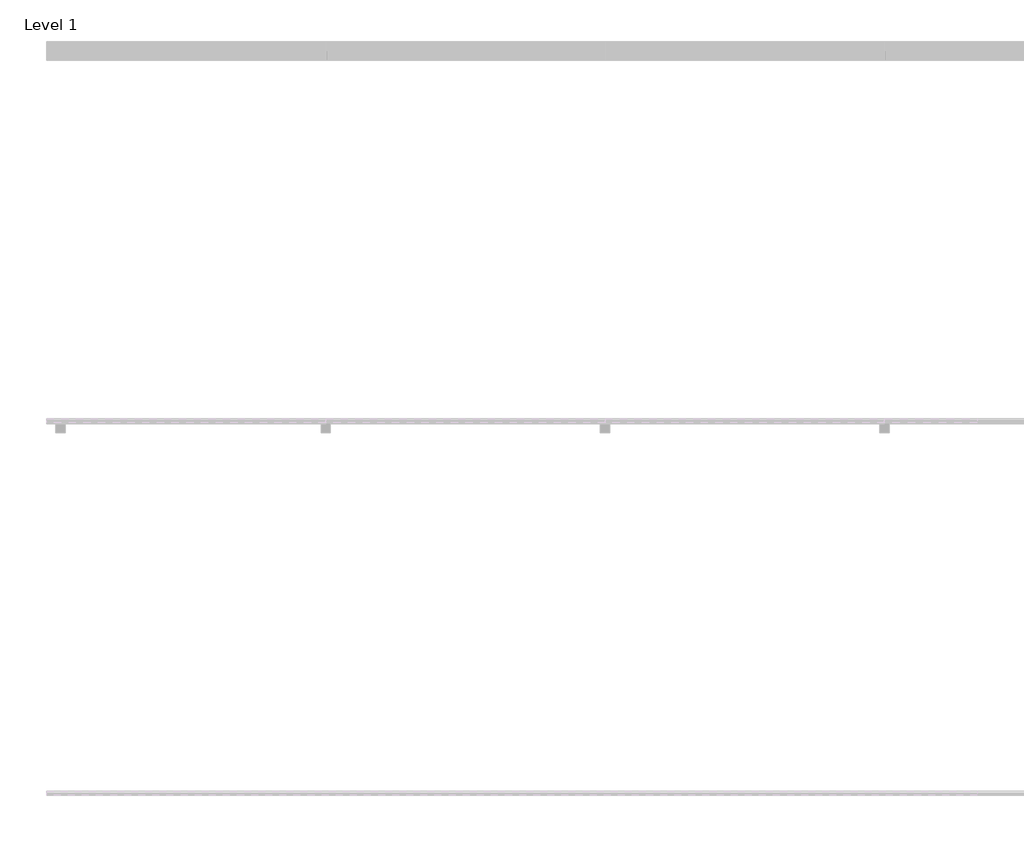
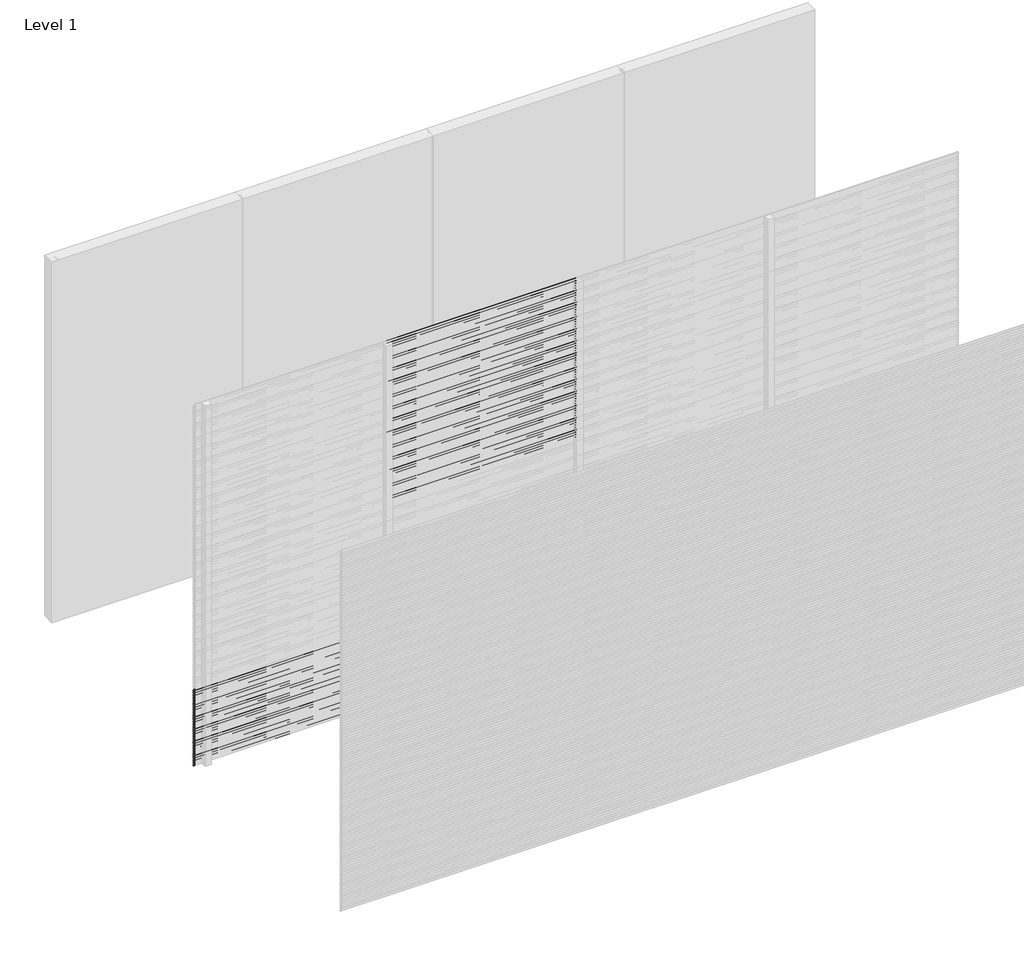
# One storey, part 12 of 31: 98 proxies.
"""IFC4 building model written with IfcOpenShell, lengths in millimetres."""

from ifc_helpers import new_model, si_unit, frame, origin, place, context, project, spatial, polyline, outline, extrude, element, save

model = new_model("IFC4")

# Units and contexts
model_context = context("Model", 3, world=origin())
ifc_project = project(units=[si_unit("LENGTHUNIT", "METRE", prefix="MILLI")], contexts=[model_context])

# Site, building, storey
site = spatial("IfcSite", under=ifc_project)
building = spatial("IfcBuilding", under=site)
storey = spatial("IfcBuildingStorey", under=building, Name="Level 1", Elevation=0.0)

# Proxies
placement = place(None, origin())
element("IfcBuildingElementProxy", 1, Name="Wall Sweeps", at=placement, inside=storey, context=model_context, shape_type="SweptSolid", body=[
    extrude(outline(polyline([(-11995.0, 640.0), (-11995.0, 628.942893), (-11976.0, 613.0), (-11976.0, 600.0), (-11997.0, 617.6210923), (-11997.0, 640.0), (-11995.0, 640.0)])), frame((0.0, 0.0, 0.0), z_axis=(1.0, 0.0, 0.0), x_axis=(0.0, 1.0, 0.0)), (0.0, 0.0, 1.0), 1500.0),
])
element("IfcBuildingElementProxy", 2, Name="Wall Sweeps", at=placement, inside=storey, context=model_context, shape_type="SweptSolid", body=[
    extrude(outline(polyline([(-11995.0, 620.0), (-11995.0, 608.942893), (-11976.0, 593.0), (-11976.0, 580.0), (-11997.0, 597.6210923), (-11997.0, 620.0), (-11995.0, 620.0)])), frame((0.0, 0.0, 0.0), z_axis=(1.0, 0.0, 0.0), x_axis=(0.0, 1.0, 0.0)), (0.0, 0.0, 1.0), 1500.0),
])
element("IfcBuildingElementProxy", 3, Name="Wall Sweeps", at=placement, inside=storey, context=model_context, shape_type="SweptSolid", body=[
    extrude(outline(polyline([(-11995.0, 600.0), (-11995.0, 588.942893), (-11976.0, 573.0), (-11976.0, 560.0), (-11997.0, 577.6210923), (-11997.0, 600.0), (-11995.0, 600.0)])), frame((0.0, 0.0, 0.0), z_axis=(1.0, 0.0, 0.0), x_axis=(0.0, 1.0, 0.0)), (0.0, 0.0, 1.0), 1500.0),
])
element("IfcBuildingElementProxy", 4, Name="Wall Sweeps", at=placement, inside=storey, context=model_context, shape_type="SweptSolid", body=[
    extrude(outline(polyline([(-11995.0, 580.0), (-11995.0, 568.942893), (-11976.0, 553.0), (-11976.0, 540.0), (-11997.0, 557.6210923), (-11997.0, 580.0), (-11995.0, 580.0)])), frame((0.0, 0.0, 0.0), z_axis=(1.0, 0.0, 0.0), x_axis=(0.0, 1.0, 0.0)), (0.0, 0.0, 1.0), 1500.0),
])
element("IfcBuildingElementProxy", 5, Name="Wall Sweeps", at=placement, inside=storey, context=model_context, shape_type="SweptSolid", body=[
    extrude(outline(polyline([(-11995.0, 560.0), (-11995.0, 548.942893), (-11976.0, 533.0), (-11976.0, 520.0), (-11997.0, 537.6210923), (-11997.0, 560.0), (-11995.0, 560.0)])), frame((0.0, 0.0, 0.0), z_axis=(1.0, 0.0, 0.0), x_axis=(0.0, 1.0, 0.0)), (0.0, 0.0, 1.0), 1500.0),
])
element("IfcBuildingElementProxy", 6, Name="Wall Sweeps", at=placement, inside=storey, context=model_context, shape_type="SweptSolid", body=[
    extrude(outline(polyline([(-11995.0, 540.0), (-11995.0, 528.942893), (-11976.0, 513.0), (-11976.0, 500.0), (-11997.0, 517.6210923), (-11997.0, 540.0), (-11995.0, 540.0)])), frame((0.0, 0.0, 0.0), z_axis=(1.0, 0.0, 0.0), x_axis=(0.0, 1.0, 0.0)), (0.0, 0.0, 1.0), 1500.0),
])
element("IfcBuildingElementProxy", 7, Name="Wall Sweeps", at=placement, inside=storey, context=model_context, shape_type="SweptSolid", body=[
    extrude(outline(polyline([(-11995.0, 520.0), (-11995.0, 508.942893), (-11976.0, 493.0), (-11976.0, 480.0), (-11997.0, 497.6210923), (-11997.0, 520.0), (-11995.0, 520.0)])), frame((0.0, 0.0, 0.0), z_axis=(1.0, 0.0, 0.0), x_axis=(0.0, 1.0, 0.0)), (0.0, 0.0, 1.0), 1500.0),
])
element("IfcBuildingElementProxy", 8, Name="Wall Sweeps", at=placement, inside=storey, context=model_context, shape_type="SweptSolid", body=[
    extrude(outline(polyline([(-11995.0, 500.0), (-11995.0, 488.942893), (-11976.0, 473.0), (-11976.0, 460.0), (-11997.0, 477.6210923), (-11997.0, 500.0), (-11995.0, 500.0)])), frame((0.0, 0.0, 0.0), z_axis=(1.0, 0.0, 0.0), x_axis=(0.0, 1.0, 0.0)), (0.0, 0.0, 1.0), 1500.0),
])
element("IfcBuildingElementProxy", 9, Name="Wall Sweeps", at=placement, inside=storey, context=model_context, shape_type="SweptSolid", body=[
    extrude(outline(polyline([(-11995.0, 480.0), (-11995.0, 468.942893), (-11976.0, 453.0), (-11976.0, 440.0), (-11997.0, 457.6210923), (-11997.0, 480.0), (-11995.0, 480.0)])), frame((0.0, 0.0, 0.0), z_axis=(1.0, 0.0, 0.0), x_axis=(0.0, 1.0, 0.0)), (0.0, 0.0, 1.0), 1500.0),
])
element("IfcBuildingElementProxy", 10, Name="Wall Sweeps", at=placement, inside=storey, context=model_context, shape_type="SweptSolid", body=[
    extrude(outline(polyline([(-11995.0, 460.0), (-11995.0, 448.942893), (-11976.0, 433.0), (-11976.0, 420.0), (-11997.0, 437.6210923), (-11997.0, 460.0), (-11995.0, 460.0)])), frame((0.0, 0.0, 0.0), z_axis=(1.0, 0.0, 0.0), x_axis=(0.0, 1.0, 0.0)), (0.0, 0.0, 1.0), 1500.0),
])
element("IfcBuildingElementProxy", 11, Name="Wall Sweeps", at=placement, inside=storey, context=model_context, shape_type="SweptSolid", body=[
    extrude(outline(polyline([(-11995.0, 440.0), (-11995.0, 428.942893), (-11976.0, 413.0), (-11976.0, 400.0), (-11997.0, 417.6210923), (-11997.0, 440.0), (-11995.0, 440.0)])), frame((0.0, 0.0, 0.0), z_axis=(1.0, 0.0, 0.0), x_axis=(0.0, 1.0, 0.0)), (0.0, 0.0, 1.0), 1500.0),
])
element("IfcBuildingElementProxy", 12, Name="Wall Sweeps", at=placement, inside=storey, context=model_context, shape_type="SweptSolid", body=[
    extrude(outline(polyline([(-11995.0, 420.0), (-11995.0, 408.942893), (-11976.0, 393.0), (-11976.0, 380.0), (-11997.0, 397.6210923), (-11997.0, 420.0), (-11995.0, 420.0)])), frame((0.0, 0.0, 0.0), z_axis=(1.0, 0.0, 0.0), x_axis=(0.0, 1.0, 0.0)), (0.0, 0.0, 1.0), 1500.0),
])
element("IfcBuildingElementProxy", 13, Name="Wall Sweeps", at=placement, inside=storey, context=model_context, shape_type="SweptSolid", body=[
    extrude(outline(polyline([(-11995.0, 400.0), (-11995.0, 388.942893), (-11976.0, 373.0), (-11976.0, 360.0), (-11997.0, 377.6210923), (-11997.0, 400.0), (-11995.0, 400.0)])), frame((0.0, 0.0, 0.0), z_axis=(1.0, 0.0, 0.0), x_axis=(0.0, 1.0, 0.0)), (0.0, 0.0, 1.0), 1500.0),
])
element("IfcBuildingElementProxy", 14, Name="Wall Sweeps", at=placement, inside=storey, context=model_context, shape_type="SweptSolid", body=[
    extrude(outline(polyline([(-11995.0, 380.0), (-11995.0, 368.942893), (-11976.0, 353.0), (-11976.0, 340.0), (-11997.0, 357.6210923), (-11997.0, 380.0), (-11995.0, 380.0)])), frame((0.0, 0.0, 0.0), z_axis=(1.0, 0.0, 0.0), x_axis=(0.0, 1.0, 0.0)), (0.0, 0.0, 1.0), 1500.0),
])
element("IfcBuildingElementProxy", 15, Name="Wall Sweeps", at=placement, inside=storey, context=model_context, shape_type="SweptSolid", body=[
    extrude(outline(polyline([(-11995.0, 360.0), (-11995.0, 348.942893), (-11976.0, 333.0), (-11976.0, 320.0), (-11997.0, 337.6210923), (-11997.0, 360.0), (-11995.0, 360.0)])), frame((0.0, 0.0, 0.0), z_axis=(1.0, 0.0, 0.0), x_axis=(0.0, 1.0, 0.0)), (0.0, 0.0, 1.0), 1500.0),
])
element("IfcBuildingElementProxy", 16, Name="Wall Sweeps", at=placement, inside=storey, context=model_context, shape_type="SweptSolid", body=[
    extrude(outline(polyline([(-11995.0, 340.0), (-11995.0, 328.942893), (-11976.0, 313.0), (-11976.0, 300.0), (-11997.0, 317.6210923), (-11997.0, 340.0), (-11995.0, 340.0)])), frame((0.0, 0.0, 0.0), z_axis=(1.0, 0.0, 0.0), x_axis=(0.0, 1.0, 0.0)), (0.0, 0.0, 1.0), 1500.0),
])
element("IfcBuildingElementProxy", 17, Name="Wall Sweeps", at=placement, inside=storey, context=model_context, shape_type="SweptSolid", body=[
    extrude(outline(polyline([(-11995.0, 320.0), (-11995.0, 308.942893), (-11976.0, 293.0), (-11976.0, 280.0), (-11997.0, 297.6210923), (-11997.0, 320.0), (-11995.0, 320.0)])), frame((0.0, 0.0, 0.0), z_axis=(1.0, 0.0, 0.0), x_axis=(0.0, 1.0, 0.0)), (0.0, 0.0, 1.0), 1500.0),
])
element("IfcBuildingElementProxy", 18, Name="Wall Sweeps", at=placement, inside=storey, context=model_context, shape_type="SweptSolid", body=[
    extrude(outline(polyline([(-11995.0, 300.0), (-11995.0, 288.942893), (-11976.0, 273.0), (-11976.0, 260.0), (-11997.0, 277.6210923), (-11997.0, 300.0), (-11995.0, 300.0)])), frame((0.0, 0.0, 0.0), z_axis=(1.0, 0.0, 0.0), x_axis=(0.0, 1.0, 0.0)), (0.0, 0.0, 1.0), 1500.0),
])
element("IfcBuildingElementProxy", 19, Name="Wall Sweeps", at=placement, inside=storey, context=model_context, shape_type="SweptSolid", body=[
    extrude(outline(polyline([(-11995.0, 280.0), (-11995.0, 268.942893), (-11976.0, 253.0), (-11976.0, 240.0), (-11997.0, 257.6210923), (-11997.0, 280.0), (-11995.0, 280.0)])), frame((0.0, 0.0, 0.0), z_axis=(1.0, 0.0, 0.0), x_axis=(0.0, 1.0, 0.0)), (0.0, 0.0, 1.0), 1500.0),
])
element("IfcBuildingElementProxy", 20, Name="Wall Sweeps", at=placement, inside=storey, context=model_context, shape_type="SweptSolid", body=[
    extrude(outline(polyline([(-11995.0, 260.0), (-11995.0, 248.942893), (-11976.0, 233.0), (-11976.0, 220.0), (-11997.0, 237.6210923), (-11997.0, 260.0), (-11995.0, 260.0)])), frame((0.0, 0.0, 0.0), z_axis=(1.0, 0.0, 0.0), x_axis=(0.0, 1.0, 0.0)), (0.0, 0.0, 1.0), 1500.0),
])
element("IfcBuildingElementProxy", 21, Name="Wall Sweeps", at=placement, inside=storey, context=model_context, shape_type="SweptSolid", body=[
    extrude(outline(polyline([(-11995.0, 240.0), (-11995.0, 228.942893), (-11976.0, 213.0), (-11976.0, 200.0), (-11997.0, 217.6210923), (-11997.0, 240.0), (-11995.0, 240.0)])), frame((0.0, 0.0, 0.0), z_axis=(1.0, 0.0, 0.0), x_axis=(0.0, 1.0, 0.0)), (0.0, 0.0, 1.0), 1500.0),
])
element("IfcBuildingElementProxy", 22, Name="Wall Sweeps", at=placement, inside=storey, context=model_context, shape_type="SweptSolid", body=[
    extrude(outline(polyline([(-11995.0, 220.0), (-11995.0, 208.942893), (-11976.0, 193.0), (-11976.0, 180.0), (-11997.0, 197.6210923), (-11997.0, 220.0), (-11995.0, 220.0)])), frame((0.0, 0.0, 0.0), z_axis=(1.0, 0.0, 0.0), x_axis=(0.0, 1.0, 0.0)), (0.0, 0.0, 1.0), 1500.0),
])
element("IfcBuildingElementProxy", 23, Name="Wall Sweeps", at=placement, inside=storey, context=model_context, shape_type="SweptSolid", body=[
    extrude(outline(polyline([(-11995.0, 200.0), (-11995.0, 188.942893), (-11976.0, 173.0), (-11976.0, 160.0), (-11997.0, 177.6210923), (-11997.0, 200.0), (-11995.0, 200.0)])), frame((0.0, 0.0, 0.0), z_axis=(1.0, 0.0, 0.0), x_axis=(0.0, 1.0, 0.0)), (0.0, 0.0, 1.0), 1500.0),
])
element("IfcBuildingElementProxy", 24, Name="Wall Sweeps", at=placement, inside=storey, context=model_context, shape_type="SweptSolid", body=[
    extrude(outline(polyline([(-11995.0, 180.0), (-11995.0, 168.942893), (-11976.0, 153.0), (-11976.0, 140.0), (-11997.0, 157.6210923), (-11997.0, 180.0), (-11995.0, 180.0)])), frame((0.0, 0.0, 0.0), z_axis=(1.0, 0.0, 0.0), x_axis=(0.0, 1.0, 0.0)), (0.0, 0.0, 1.0), 1500.0),
])
element("IfcBuildingElementProxy", 25, Name="Wall Sweeps", at=placement, inside=storey, context=model_context, shape_type="SweptSolid", body=[
    extrude(outline(polyline([(-11995.0, 160.0), (-11995.0, 148.942893), (-11976.0, 133.0), (-11976.0, 120.0), (-11997.0, 137.6210923), (-11997.0, 160.0), (-11995.0, 160.0)])), frame((0.0, 0.0, 0.0), z_axis=(1.0, 0.0, 0.0), x_axis=(0.0, 1.0, 0.0)), (0.0, 0.0, 1.0), 1500.0),
])
element("IfcBuildingElementProxy", 26, Name="Wall Sweeps", at=placement, inside=storey, context=model_context, shape_type="SweptSolid", body=[
    extrude(outline(polyline([(-11995.0, 140.0), (-11995.0, 128.942893), (-11976.0, 113.0), (-11976.0, 100.0), (-11997.0, 117.6210923), (-11997.0, 140.0), (-11995.0, 140.0)])), frame((0.0, 0.0, 0.0), z_axis=(1.0, 0.0, 0.0), x_axis=(0.0, 1.0, 0.0)), (0.0, 0.0, 1.0), 1500.0),
])
element("IfcBuildingElementProxy", 27, Name="Wall Sweeps", at=placement, inside=storey, context=model_context, shape_type="SweptSolid", body=[
    extrude(outline(polyline([(-11995.0, 120.0), (-11995.0, 108.942893), (-11976.0, 93.0), (-11976.0, 80.0), (-11997.0, 97.6210923), (-11997.0, 120.0), (-11995.0, 120.0)])), frame((0.0, 0.0, 0.0), z_axis=(1.0, 0.0, 0.0), x_axis=(0.0, 1.0, 0.0)), (0.0, 0.0, 1.0), 1500.0),
])
element("IfcBuildingElementProxy", 28, Name="Wall Sweeps", at=placement, inside=storey, context=model_context, shape_type="SweptSolid", body=[
    extrude(outline(polyline([(-11995.0, 100.0), (-11995.0, 88.942893), (-11976.0, 73.0), (-11976.0, 60.0), (-11997.0, 77.6210923), (-11997.0, 100.0), (-11995.0, 100.0)])), frame((0.0, 0.0, 0.0), z_axis=(1.0, 0.0, 0.0), x_axis=(0.0, 1.0, 0.0)), (0.0, 0.0, 1.0), 1500.0),
])
element("IfcBuildingElementProxy", 29, Name="Wall Sweeps", at=placement, inside=storey, context=model_context, shape_type="SweptSolid", body=[
    extrude(outline(polyline([(-11995.0, 80.0), (-11995.0, 68.942893), (-11976.0, 53.0), (-11976.0, 40.0), (-11997.0, 57.6210923), (-11997.0, 80.0), (-11995.0, 80.0)])), frame((0.0, 0.0, 0.0), z_axis=(1.0, 0.0, 0.0), x_axis=(0.0, 1.0, 0.0)), (0.0, 0.0, 1.0), 1500.0),
])
element("IfcBuildingElementProxy", 30, Name="Wall Sweeps", at=placement, inside=storey, context=model_context, shape_type="SweptSolid", body=[
    extrude(outline(polyline([(-11995.0, 60.0), (-11995.0, 48.942893), (-11976.0, 33.0), (-11976.0, 20.0), (-11997.0, 37.6210923), (-11997.0, 60.0), (-11995.0, 60.0)])), frame((0.0, 0.0, 0.0), z_axis=(1.0, 0.0, 0.0), x_axis=(0.0, 1.0, 0.0)), (0.0, 0.0, 1.0), 1500.0),
])
element("IfcBuildingElementProxy", 31, Name="Wall Sweeps", at=placement, inside=storey, context=model_context, shape_type="SweptSolid", body=[
    extrude(outline(polyline([(-11995.0, 40.0), (-11995.0, 28.942893), (-11976.0, 13.0), (-11976.0, 0.0), (-11997.0, 17.6210923), (-11997.0, 40.0), (-11995.0, 40.0)])), frame((0.0, 0.0, 0.0), z_axis=(1.0, 0.0, 0.0), x_axis=(0.0, 1.0, 0.0)), (0.0, 0.0, 1.0), 1500.0),
])
element("IfcBuildingElementProxy", 32, Name="Wall Sweeps", at=placement, inside=storey, context=model_context, shape_type="SweptSolid", body=[
    extrude(outline(polyline([(-11995.0, 20.0), (-11995.0, 8.942893), (-11976.0, -7.0), (-11976.0, -20.0), (-11997.0, -2.3789077), (-11997.0, 20.0), (-11995.0, 20.0)])), frame((0.0, 0.0, 0.0), z_axis=(1.0, 0.0, 0.0), x_axis=(0.0, 1.0, 0.0)), (0.0, 0.0, 1.0), 1500.0),
])
element("IfcBuildingElementProxy", 33, Name="Wall Sweeps", at=placement, inside=storey, context=model_context, shape_type="SweptSolid", body=[
    extrude(outline(polyline([(-11995.0, 3000.0), (-11995.0, 2988.942893), (-11976.0, 2973.0), (-11976.0, 2960.0), (-11997.0, 2977.6210923), (-11997.0, 3000.0), (-11995.0, 3000.0)])), frame((1500.0, 0.0, 0.0), z_axis=(1.0, 0.0, 0.0), x_axis=(0.0, 1.0, 0.0)), (0.0, 0.0, 1.0), 1500.0),
])
element("IfcBuildingElementProxy", 34, Name="Wall Sweeps", at=placement, inside=storey, context=model_context, shape_type="SweptSolid", body=[
    extrude(outline(polyline([(-11995.0, 2980.0), (-11995.0, 2968.942893), (-11976.0, 2953.0), (-11976.0, 2940.0), (-11997.0, 2957.6210923), (-11997.0, 2980.0), (-11995.0, 2980.0)])), frame((1500.0, 0.0, 0.0), z_axis=(1.0, 0.0, 0.0), x_axis=(0.0, 1.0, 0.0)), (0.0, 0.0, 1.0), 1500.0),
])
element("IfcBuildingElementProxy", 35, Name="Wall Sweeps", at=placement, inside=storey, context=model_context, shape_type="SweptSolid", body=[
    extrude(outline(polyline([(-11995.0, 2960.0), (-11995.0, 2948.942893), (-11976.0, 2933.0), (-11976.0, 2920.0), (-11997.0, 2937.6210923), (-11997.0, 2960.0), (-11995.0, 2960.0)])), frame((1500.0, 0.0, 0.0), z_axis=(1.0, 0.0, 0.0), x_axis=(0.0, 1.0, 0.0)), (0.0, 0.0, 1.0), 1500.0),
])
element("IfcBuildingElementProxy", 36, Name="Wall Sweeps", at=placement, inside=storey, context=model_context, shape_type="SweptSolid", body=[
    extrude(outline(polyline([(-11995.0, 2940.0), (-11995.0, 2928.942893), (-11976.0, 2913.0), (-11976.0, 2900.0), (-11997.0, 2917.6210923), (-11997.0, 2940.0), (-11995.0, 2940.0)])), frame((1500.0, 0.0, 0.0), z_axis=(1.0, 0.0, 0.0), x_axis=(0.0, 1.0, 0.0)), (0.0, 0.0, 1.0), 1500.0),
])
element("IfcBuildingElementProxy", 37, Name="Wall Sweeps", at=placement, inside=storey, context=model_context, shape_type="SweptSolid", body=[
    extrude(outline(polyline([(-11995.0, 2920.0), (-11995.0, 2908.942893), (-11976.0, 2893.0), (-11976.0, 2880.0), (-11997.0, 2897.6210923), (-11997.0, 2920.0), (-11995.0, 2920.0)])), frame((1500.0, 0.0, 0.0), z_axis=(1.0, 0.0, 0.0), x_axis=(0.0, 1.0, 0.0)), (0.0, 0.0, 1.0), 1500.0),
])
element("IfcBuildingElementProxy", 38, Name="Wall Sweeps", at=placement, inside=storey, context=model_context, shape_type="SweptSolid", body=[
    extrude(outline(polyline([(-11995.0, 2900.0), (-11995.0, 2888.942893), (-11976.0, 2873.0), (-11976.0, 2860.0), (-11997.0, 2877.6210923), (-11997.0, 2900.0), (-11995.0, 2900.0)])), frame((1500.0, 0.0, 0.0), z_axis=(1.0, 0.0, 0.0), x_axis=(0.0, 1.0, 0.0)), (0.0, 0.0, 1.0), 1500.0),
])
element("IfcBuildingElementProxy", 39, Name="Wall Sweeps", at=placement, inside=storey, context=model_context, shape_type="SweptSolid", body=[
    extrude(outline(polyline([(-11995.0, 2880.0), (-11995.0, 2868.942893), (-11976.0, 2853.0), (-11976.0, 2840.0), (-11997.0, 2857.6210923), (-11997.0, 2880.0), (-11995.0, 2880.0)])), frame((1500.0, 0.0, 0.0), z_axis=(1.0, 0.0, 0.0), x_axis=(0.0, 1.0, 0.0)), (0.0, 0.0, 1.0), 1500.0),
])
element("IfcBuildingElementProxy", 40, Name="Wall Sweeps", at=placement, inside=storey, context=model_context, shape_type="SweptSolid", body=[
    extrude(outline(polyline([(-11995.0, 2860.0), (-11995.0, 2848.942893), (-11976.0, 2833.0), (-11976.0, 2820.0), (-11997.0, 2837.6210923), (-11997.0, 2860.0), (-11995.0, 2860.0)])), frame((1500.0, 0.0, 0.0), z_axis=(1.0, 0.0, 0.0), x_axis=(0.0, 1.0, 0.0)), (0.0, 0.0, 1.0), 1500.0),
])
element("IfcBuildingElementProxy", 41, Name="Wall Sweeps", at=placement, inside=storey, context=model_context, shape_type="SweptSolid", body=[
    extrude(outline(polyline([(-11995.0, 2840.0), (-11995.0, 2828.942893), (-11976.0, 2813.0), (-11976.0, 2800.0), (-11997.0, 2817.6210923), (-11997.0, 2840.0), (-11995.0, 2840.0)])), frame((1500.0, 0.0, 0.0), z_axis=(1.0, 0.0, 0.0), x_axis=(0.0, 1.0, 0.0)), (0.0, 0.0, 1.0), 1500.0),
])
element("IfcBuildingElementProxy", 42, Name="Wall Sweeps", at=placement, inside=storey, context=model_context, shape_type="SweptSolid", body=[
    extrude(outline(polyline([(-11995.0, 2820.0), (-11995.0, 2808.942893), (-11976.0, 2793.0), (-11976.0, 2780.0), (-11997.0, 2797.6210923), (-11997.0, 2820.0), (-11995.0, 2820.0)])), frame((1500.0, 0.0, 0.0), z_axis=(1.0, 0.0, 0.0), x_axis=(0.0, 1.0, 0.0)), (0.0, 0.0, 1.0), 1500.0),
])
element("IfcBuildingElementProxy", 43, Name="Wall Sweeps", at=placement, inside=storey, context=model_context, shape_type="SweptSolid", body=[
    extrude(outline(polyline([(-11995.0, 2800.0), (-11995.0, 2788.942893), (-11976.0, 2773.0), (-11976.0, 2760.0), (-11997.0, 2777.6210923), (-11997.0, 2800.0), (-11995.0, 2800.0)])), frame((1500.0, 0.0, 0.0), z_axis=(1.0, 0.0, 0.0), x_axis=(0.0, 1.0, 0.0)), (0.0, 0.0, 1.0), 1500.0),
])
element("IfcBuildingElementProxy", 44, Name="Wall Sweeps", at=placement, inside=storey, context=model_context, shape_type="SweptSolid", body=[
    extrude(outline(polyline([(-11995.0, 2780.0), (-11995.0, 2768.942893), (-11976.0, 2753.0), (-11976.0, 2740.0), (-11997.0, 2757.6210923), (-11997.0, 2780.0), (-11995.0, 2780.0)])), frame((1500.0, 0.0, 0.0), z_axis=(1.0, 0.0, 0.0), x_axis=(0.0, 1.0, 0.0)), (0.0, 0.0, 1.0), 1500.0),
])
element("IfcBuildingElementProxy", 45, Name="Wall Sweeps", at=placement, inside=storey, context=model_context, shape_type="SweptSolid", body=[
    extrude(outline(polyline([(-11995.0, 2760.0), (-11995.0, 2748.942893), (-11976.0, 2733.0), (-11976.0, 2720.0), (-11997.0, 2737.6210923), (-11997.0, 2760.0), (-11995.0, 2760.0)])), frame((1500.0, 0.0, 0.0), z_axis=(1.0, 0.0, 0.0), x_axis=(0.0, 1.0, 0.0)), (0.0, 0.0, 1.0), 1500.0),
])
element("IfcBuildingElementProxy", 46, Name="Wall Sweeps", at=placement, inside=storey, context=model_context, shape_type="SweptSolid", body=[
    extrude(outline(polyline([(-11995.0, 2740.0), (-11995.0, 2728.942893), (-11976.0, 2713.0), (-11976.0, 2700.0), (-11997.0, 2717.6210923), (-11997.0, 2740.0), (-11995.0, 2740.0)])), frame((1500.0, 0.0, 0.0), z_axis=(1.0, 0.0, 0.0), x_axis=(0.0, 1.0, 0.0)), (0.0, 0.0, 1.0), 1500.0),
])
element("IfcBuildingElementProxy", 47, Name="Wall Sweeps", at=placement, inside=storey, context=model_context, shape_type="SweptSolid", body=[
    extrude(outline(polyline([(-11995.0, 2720.0), (-11995.0, 2708.942893), (-11976.0, 2693.0), (-11976.0, 2680.0), (-11997.0, 2697.6210923), (-11997.0, 2720.0), (-11995.0, 2720.0)])), frame((1500.0, 0.0, 0.0), z_axis=(1.0, 0.0, 0.0), x_axis=(0.0, 1.0, 0.0)), (0.0, 0.0, 1.0), 1500.0),
])
element("IfcBuildingElementProxy", 48, Name="Wall Sweeps", at=placement, inside=storey, context=model_context, shape_type="SweptSolid", body=[
    extrude(outline(polyline([(-11995.0, 2700.0), (-11995.0, 2688.942893), (-11976.0, 2673.0), (-11976.0, 2660.0), (-11997.0, 2677.6210923), (-11997.0, 2700.0), (-11995.0, 2700.0)])), frame((1500.0, 0.0, 0.0), z_axis=(1.0, 0.0, 0.0), x_axis=(0.0, 1.0, 0.0)), (0.0, 0.0, 1.0), 1500.0),
])
element("IfcBuildingElementProxy", 49, Name="Wall Sweeps", at=placement, inside=storey, context=model_context, shape_type="SweptSolid", body=[
    extrude(outline(polyline([(-11995.0, 2680.0), (-11995.0, 2668.942893), (-11976.0, 2653.0), (-11976.0, 2640.0), (-11997.0, 2657.6210923), (-11997.0, 2680.0), (-11995.0, 2680.0)])), frame((1500.0, 0.0, 0.0), z_axis=(1.0, 0.0, 0.0), x_axis=(0.0, 1.0, 0.0)), (0.0, 0.0, 1.0), 1500.0),
])
element("IfcBuildingElementProxy", 50, Name="Wall Sweeps", at=placement, inside=storey, context=model_context, shape_type="SweptSolid", body=[
    extrude(outline(polyline([(-11995.0, 2660.0), (-11995.0, 2648.942893), (-11976.0, 2633.0), (-11976.0, 2620.0), (-11997.0, 2637.6210923), (-11997.0, 2660.0), (-11995.0, 2660.0)])), frame((1500.0, 0.0, 0.0), z_axis=(1.0, 0.0, 0.0), x_axis=(0.0, 1.0, 0.0)), (0.0, 0.0, 1.0), 1500.0),
])
element("IfcBuildingElementProxy", 51, Name="Wall Sweeps", at=placement, inside=storey, context=model_context, shape_type="SweptSolid", body=[
    extrude(outline(polyline([(-11995.0, 2640.0), (-11995.0, 2628.942893), (-11976.0, 2613.0), (-11976.0, 2600.0), (-11997.0, 2617.6210923), (-11997.0, 2640.0), (-11995.0, 2640.0)])), frame((1500.0, 0.0, 0.0), z_axis=(1.0, 0.0, 0.0), x_axis=(0.0, 1.0, 0.0)), (0.0, 0.0, 1.0), 1500.0),
])
element("IfcBuildingElementProxy", 52, Name="Wall Sweeps", at=placement, inside=storey, context=model_context, shape_type="SweptSolid", body=[
    extrude(outline(polyline([(-11995.0, 2620.0), (-11995.0, 2608.942893), (-11976.0, 2593.0), (-11976.0, 2580.0), (-11997.0, 2597.6210923), (-11997.0, 2620.0), (-11995.0, 2620.0)])), frame((1500.0, 0.0, 0.0), z_axis=(1.0, 0.0, 0.0), x_axis=(0.0, 1.0, 0.0)), (0.0, 0.0, 1.0), 1500.0),
])
element("IfcBuildingElementProxy", 53, Name="Wall Sweeps", at=placement, inside=storey, context=model_context, shape_type="SweptSolid", body=[
    extrude(outline(polyline([(-11995.0, 2600.0), (-11995.0, 2588.942893), (-11976.0, 2573.0), (-11976.0, 2560.0), (-11997.0, 2577.6210923), (-11997.0, 2600.0), (-11995.0, 2600.0)])), frame((1500.0, 0.0, 0.0), z_axis=(1.0, 0.0, 0.0), x_axis=(0.0, 1.0, 0.0)), (0.0, 0.0, 1.0), 1500.0),
])
element("IfcBuildingElementProxy", 54, Name="Wall Sweeps", at=placement, inside=storey, context=model_context, shape_type="SweptSolid", body=[
    extrude(outline(polyline([(-11995.0, 2580.0), (-11995.0, 2568.942893), (-11976.0, 2553.0), (-11976.0, 2540.0), (-11997.0, 2557.6210923), (-11997.0, 2580.0), (-11995.0, 2580.0)])), frame((1500.0, 0.0, 0.0), z_axis=(1.0, 0.0, 0.0), x_axis=(0.0, 1.0, 0.0)), (0.0, 0.0, 1.0), 1500.0),
])
element("IfcBuildingElementProxy", 55, Name="Wall Sweeps", at=placement, inside=storey, context=model_context, shape_type="SweptSolid", body=[
    extrude(outline(polyline([(-11995.0, 2560.0), (-11995.0, 2548.942893), (-11976.0, 2533.0), (-11976.0, 2520.0), (-11997.0, 2537.6210923), (-11997.0, 2560.0), (-11995.0, 2560.0)])), frame((1500.0, 0.0, 0.0), z_axis=(1.0, 0.0, 0.0), x_axis=(0.0, 1.0, 0.0)), (0.0, 0.0, 1.0), 1500.0),
])
element("IfcBuildingElementProxy", 56, Name="Wall Sweeps", at=placement, inside=storey, context=model_context, shape_type="SweptSolid", body=[
    extrude(outline(polyline([(-11995.0, 2540.0), (-11995.0, 2528.942893), (-11976.0, 2513.0), (-11976.0, 2500.0), (-11997.0, 2517.6210923), (-11997.0, 2540.0), (-11995.0, 2540.0)])), frame((1500.0, 0.0, 0.0), z_axis=(1.0, 0.0, 0.0), x_axis=(0.0, 1.0, 0.0)), (0.0, 0.0, 1.0), 1500.0),
])
element("IfcBuildingElementProxy", 57, Name="Wall Sweeps", at=placement, inside=storey, context=model_context, shape_type="SweptSolid", body=[
    extrude(outline(polyline([(-11995.0, 2520.0), (-11995.0, 2508.942893), (-11976.0, 2493.0), (-11976.0, 2480.0), (-11997.0, 2497.6210923), (-11997.0, 2520.0), (-11995.0, 2520.0)])), frame((1500.0, 0.0, 0.0), z_axis=(1.0, 0.0, 0.0), x_axis=(0.0, 1.0, 0.0)), (0.0, 0.0, 1.0), 1500.0),
])
element("IfcBuildingElementProxy", 58, Name="Wall Sweeps", at=placement, inside=storey, context=model_context, shape_type="SweptSolid", body=[
    extrude(outline(polyline([(-11995.0, 2500.0), (-11995.0, 2488.942893), (-11976.0, 2473.0), (-11976.0, 2460.0), (-11997.0, 2477.6210923), (-11997.0, 2500.0), (-11995.0, 2500.0)])), frame((1500.0, 0.0, 0.0), z_axis=(1.0, 0.0, 0.0), x_axis=(0.0, 1.0, 0.0)), (0.0, 0.0, 1.0), 1500.0),
])
element("IfcBuildingElementProxy", 59, Name="Wall Sweeps", at=placement, inside=storey, context=model_context, shape_type="SweptSolid", body=[
    extrude(outline(polyline([(-11995.0, 2480.0), (-11995.0, 2468.942893), (-11976.0, 2453.0), (-11976.0, 2440.0), (-11997.0, 2457.6210923), (-11997.0, 2480.0), (-11995.0, 2480.0)])), frame((1500.0, 0.0, 0.0), z_axis=(1.0, 0.0, 0.0), x_axis=(0.0, 1.0, 0.0)), (0.0, 0.0, 1.0), 1500.0),
])
element("IfcBuildingElementProxy", 60, Name="Wall Sweeps", at=placement, inside=storey, context=model_context, shape_type="SweptSolid", body=[
    extrude(outline(polyline([(-11995.0, 2460.0), (-11995.0, 2448.942893), (-11976.0, 2433.0), (-11976.0, 2420.0), (-11997.0, 2437.6210923), (-11997.0, 2460.0), (-11995.0, 2460.0)])), frame((1500.0, 0.0, 0.0), z_axis=(1.0, 0.0, 0.0), x_axis=(0.0, 1.0, 0.0)), (0.0, 0.0, 1.0), 1500.0),
])
element("IfcBuildingElementProxy", 61, Name="Wall Sweeps", at=placement, inside=storey, context=model_context, shape_type="SweptSolid", body=[
    extrude(outline(polyline([(-11995.0, 2440.0), (-11995.0, 2428.942893), (-11976.0, 2413.0), (-11976.0, 2400.0), (-11997.0, 2417.6210923), (-11997.0, 2440.0), (-11995.0, 2440.0)])), frame((1500.0, 0.0, 0.0), z_axis=(1.0, 0.0, 0.0), x_axis=(0.0, 1.0, 0.0)), (0.0, 0.0, 1.0), 1500.0),
])
element("IfcBuildingElementProxy", 62, Name="Wall Sweeps", at=placement, inside=storey, context=model_context, shape_type="SweptSolid", body=[
    extrude(outline(polyline([(-11995.0, 2420.0), (-11995.0, 2408.942893), (-11976.0, 2393.0), (-11976.0, 2380.0), (-11997.0, 2397.6210923), (-11997.0, 2420.0), (-11995.0, 2420.0)])), frame((1500.0, 0.0, 0.0), z_axis=(1.0, 0.0, 0.0), x_axis=(0.0, 1.0, 0.0)), (0.0, 0.0, 1.0), 1500.0),
])
element("IfcBuildingElementProxy", 63, Name="Wall Sweeps", at=placement, inside=storey, context=model_context, shape_type="SweptSolid", body=[
    extrude(outline(polyline([(-11995.0, 2400.0), (-11995.0, 2388.942893), (-11976.0, 2373.0), (-11976.0, 2360.0), (-11997.0, 2377.6210923), (-11997.0, 2400.0), (-11995.0, 2400.0)])), frame((1500.0, 0.0, 0.0), z_axis=(1.0, 0.0, 0.0), x_axis=(0.0, 1.0, 0.0)), (0.0, 0.0, 1.0), 1500.0),
])
element("IfcBuildingElementProxy", 64, Name="Wall Sweeps", at=placement, inside=storey, context=model_context, shape_type="SweptSolid", body=[
    extrude(outline(polyline([(-11995.0, 2380.0), (-11995.0, 2368.942893), (-11976.0, 2353.0), (-11976.0, 2340.0), (-11997.0, 2357.6210923), (-11997.0, 2380.0), (-11995.0, 2380.0)])), frame((1500.0, 0.0, 0.0), z_axis=(1.0, 0.0, 0.0), x_axis=(0.0, 1.0, 0.0)), (0.0, 0.0, 1.0), 1500.0),
])
element("IfcBuildingElementProxy", 65, Name="Wall Sweeps", at=placement, inside=storey, context=model_context, shape_type="SweptSolid", body=[
    extrude(outline(polyline([(-11995.0, 2360.0), (-11995.0, 2348.942893), (-11976.0, 2333.0), (-11976.0, 2320.0), (-11997.0, 2337.6210923), (-11997.0, 2360.0), (-11995.0, 2360.0)])), frame((1500.0, 0.0, 0.0), z_axis=(1.0, 0.0, 0.0), x_axis=(0.0, 1.0, 0.0)), (0.0, 0.0, 1.0), 1500.0),
])
element("IfcBuildingElementProxy", 66, Name="Wall Sweeps", at=placement, inside=storey, context=model_context, shape_type="SweptSolid", body=[
    extrude(outline(polyline([(-11995.0, 2340.0), (-11995.0, 2328.942893), (-11976.0, 2313.0), (-11976.0, 2300.0), (-11997.0, 2317.6210923), (-11997.0, 2340.0), (-11995.0, 2340.0)])), frame((1500.0, 0.0, 0.0), z_axis=(1.0, 0.0, 0.0), x_axis=(0.0, 1.0, 0.0)), (0.0, 0.0, 1.0), 1500.0),
])
element("IfcBuildingElementProxy", 67, Name="Wall Sweeps", at=placement, inside=storey, context=model_context, shape_type="SweptSolid", body=[
    extrude(outline(polyline([(-11995.0, 2320.0), (-11995.0, 2308.942893), (-11976.0, 2293.0), (-11976.0, 2280.0), (-11997.0, 2297.6210923), (-11997.0, 2320.0), (-11995.0, 2320.0)])), frame((1500.0, 0.0, 0.0), z_axis=(1.0, 0.0, 0.0), x_axis=(0.0, 1.0, 0.0)), (0.0, 0.0, 1.0), 1500.0),
])
element("IfcBuildingElementProxy", 68, Name="Wall Sweeps", at=placement, inside=storey, context=model_context, shape_type="SweptSolid", body=[
    extrude(outline(polyline([(-11995.0, 2300.0), (-11995.0, 2288.942893), (-11976.0, 2273.0), (-11976.0, 2260.0), (-11997.0, 2277.6210923), (-11997.0, 2300.0), (-11995.0, 2300.0)])), frame((1500.0, 0.0, 0.0), z_axis=(1.0, 0.0, 0.0), x_axis=(0.0, 1.0, 0.0)), (0.0, 0.0, 1.0), 1500.0),
])
element("IfcBuildingElementProxy", 69, Name="Wall Sweeps", at=placement, inside=storey, context=model_context, shape_type="SweptSolid", body=[
    extrude(outline(polyline([(-11995.0, 2280.0), (-11995.0, 2268.942893), (-11976.0, 2253.0), (-11976.0, 2240.0), (-11997.0, 2257.6210923), (-11997.0, 2280.0), (-11995.0, 2280.0)])), frame((1500.0, 0.0, 0.0), z_axis=(1.0, 0.0, 0.0), x_axis=(0.0, 1.0, 0.0)), (0.0, 0.0, 1.0), 1500.0),
])
element("IfcBuildingElementProxy", 70, Name="Wall Sweeps", at=placement, inside=storey, context=model_context, shape_type="SweptSolid", body=[
    extrude(outline(polyline([(-11995.0, 2260.0), (-11995.0, 2248.942893), (-11976.0, 2233.0), (-11976.0, 2220.0), (-11997.0, 2237.6210923), (-11997.0, 2260.0), (-11995.0, 2260.0)])), frame((1500.0, 0.0, 0.0), z_axis=(1.0, 0.0, 0.0), x_axis=(0.0, 1.0, 0.0)), (0.0, 0.0, 1.0), 1500.0),
])
element("IfcBuildingElementProxy", 71, Name="Wall Sweeps", at=placement, inside=storey, context=model_context, shape_type="SweptSolid", body=[
    extrude(outline(polyline([(-11995.0, 2240.0), (-11995.0, 2228.942893), (-11976.0, 2213.0), (-11976.0, 2200.0), (-11997.0, 2217.6210923), (-11997.0, 2240.0), (-11995.0, 2240.0)])), frame((1500.0, 0.0, 0.0), z_axis=(1.0, 0.0, 0.0), x_axis=(0.0, 1.0, 0.0)), (0.0, 0.0, 1.0), 1500.0),
])
element("IfcBuildingElementProxy", 72, Name="Wall Sweeps", at=placement, inside=storey, context=model_context, shape_type="SweptSolid", body=[
    extrude(outline(polyline([(-11995.0, 2220.0), (-11995.0, 2208.942893), (-11976.0, 2193.0), (-11976.0, 2180.0), (-11997.0, 2197.6210923), (-11997.0, 2220.0), (-11995.0, 2220.0)])), frame((1500.0, 0.0, 0.0), z_axis=(1.0, 0.0, 0.0), x_axis=(0.0, 1.0, 0.0)), (0.0, 0.0, 1.0), 1500.0),
])
element("IfcBuildingElementProxy", 73, Name="Wall Sweeps", at=placement, inside=storey, context=model_context, shape_type="SweptSolid", body=[
    extrude(outline(polyline([(-11995.0, 2200.0), (-11995.0, 2188.942893), (-11976.0, 2173.0), (-11976.0, 2160.0), (-11997.0, 2177.6210923), (-11997.0, 2200.0), (-11995.0, 2200.0)])), frame((1500.0, 0.0, 0.0), z_axis=(1.0, 0.0, 0.0), x_axis=(0.0, 1.0, 0.0)), (0.0, 0.0, 1.0), 1500.0),
])
element("IfcBuildingElementProxy", 74, Name="Wall Sweeps", at=placement, inside=storey, context=model_context, shape_type="SweptSolid", body=[
    extrude(outline(polyline([(-11995.0, 2180.0), (-11995.0, 2168.942893), (-11976.0, 2153.0), (-11976.0, 2140.0), (-11997.0, 2157.6210923), (-11997.0, 2180.0), (-11995.0, 2180.0)])), frame((1500.0, 0.0, 0.0), z_axis=(1.0, 0.0, 0.0), x_axis=(0.0, 1.0, 0.0)), (0.0, 0.0, 1.0), 1500.0),
])
element("IfcBuildingElementProxy", 75, Name="Wall Sweeps", at=placement, inside=storey, context=model_context, shape_type="SweptSolid", body=[
    extrude(outline(polyline([(-11995.0, 2160.0), (-11995.0, 2148.942893), (-11976.0, 2133.0), (-11976.0, 2120.0), (-11997.0, 2137.6210923), (-11997.0, 2160.0), (-11995.0, 2160.0)])), frame((1500.0, 0.0, 0.0), z_axis=(1.0, 0.0, 0.0), x_axis=(0.0, 1.0, 0.0)), (0.0, 0.0, 1.0), 1500.0),
])
element("IfcBuildingElementProxy", 76, Name="Wall Sweeps", at=placement, inside=storey, context=model_context, shape_type="SweptSolid", body=[
    extrude(outline(polyline([(-11995.0, 2140.0), (-11995.0, 2128.942893), (-11976.0, 2113.0), (-11976.0, 2100.0), (-11997.0, 2117.6210923), (-11997.0, 2140.0), (-11995.0, 2140.0)])), frame((1500.0, 0.0, 0.0), z_axis=(1.0, 0.0, 0.0), x_axis=(0.0, 1.0, 0.0)), (0.0, 0.0, 1.0), 1500.0),
])
element("IfcBuildingElementProxy", 77, Name="Wall Sweeps", at=placement, inside=storey, context=model_context, shape_type="SweptSolid", body=[
    extrude(outline(polyline([(-11995.0, 2120.0), (-11995.0, 2108.942893), (-11976.0, 2093.0), (-11976.0, 2080.0), (-11997.0, 2097.6210923), (-11997.0, 2120.0), (-11995.0, 2120.0)])), frame((1500.0, 0.0, 0.0), z_axis=(1.0, 0.0, 0.0), x_axis=(0.0, 1.0, 0.0)), (0.0, 0.0, 1.0), 1500.0),
])
element("IfcBuildingElementProxy", 78, Name="Wall Sweeps", at=placement, inside=storey, context=model_context, shape_type="SweptSolid", body=[
    extrude(outline(polyline([(-11995.0, 2100.0), (-11995.0, 2088.942893), (-11976.0, 2073.0), (-11976.0, 2060.0), (-11997.0, 2077.6210923), (-11997.0, 2100.0), (-11995.0, 2100.0)])), frame((1500.0, 0.0, 0.0), z_axis=(1.0, 0.0, 0.0), x_axis=(0.0, 1.0, 0.0)), (0.0, 0.0, 1.0), 1500.0),
])
element("IfcBuildingElementProxy", 79, Name="Wall Sweeps", at=placement, inside=storey, context=model_context, shape_type="SweptSolid", body=[
    extrude(outline(polyline([(-11995.0, 2080.0), (-11995.0, 2068.942893), (-11976.0, 2053.0), (-11976.0, 2040.0), (-11997.0, 2057.6210923), (-11997.0, 2080.0), (-11995.0, 2080.0)])), frame((1500.0, 0.0, 0.0), z_axis=(1.0, 0.0, 0.0), x_axis=(0.0, 1.0, 0.0)), (0.0, 0.0, 1.0), 1500.0),
])
element("IfcBuildingElementProxy", 80, Name="Wall Sweeps", at=placement, inside=storey, context=model_context, shape_type="SweptSolid", body=[
    extrude(outline(polyline([(-11995.0, 2060.0), (-11995.0, 2048.942893), (-11976.0, 2033.0), (-11976.0, 2020.0), (-11997.0, 2037.6210923), (-11997.0, 2060.0), (-11995.0, 2060.0)])), frame((1500.0, 0.0, 0.0), z_axis=(1.0, 0.0, 0.0), x_axis=(0.0, 1.0, 0.0)), (0.0, 0.0, 1.0), 1500.0),
])
element("IfcBuildingElementProxy", 81, Name="Wall Sweeps", at=placement, inside=storey, context=model_context, shape_type="SweptSolid", body=[
    extrude(outline(polyline([(-11995.0, 2040.0), (-11995.0, 2028.942893), (-11976.0, 2013.0), (-11976.0, 2000.0), (-11997.0, 2017.6210923), (-11997.0, 2040.0), (-11995.0, 2040.0)])), frame((1500.0, 0.0, 0.0), z_axis=(1.0, 0.0, 0.0), x_axis=(0.0, 1.0, 0.0)), (0.0, 0.0, 1.0), 1500.0),
])
element("IfcBuildingElementProxy", 82, Name="Wall Sweeps", at=placement, inside=storey, context=model_context, shape_type="SweptSolid", body=[
    extrude(outline(polyline([(-11995.0, 2020.0), (-11995.0, 2008.942893), (-11976.0, 1993.0), (-11976.0, 1980.0), (-11997.0, 1997.6210923), (-11997.0, 2020.0), (-11995.0, 2020.0)])), frame((1500.0, 0.0, 0.0), z_axis=(1.0, 0.0, 0.0), x_axis=(0.0, 1.0, 0.0)), (0.0, 0.0, 1.0), 1500.0),
])
element("IfcBuildingElementProxy", 83, Name="Wall Sweeps", at=placement, inside=storey, context=model_context, shape_type="SweptSolid", body=[
    extrude(outline(polyline([(-11995.0, 2000.0), (-11995.0, 1988.942893), (-11976.0, 1973.0), (-11976.0, 1960.0), (-11997.0, 1977.6210923), (-11997.0, 2000.0), (-11995.0, 2000.0)])), frame((1500.0, 0.0, 0.0), z_axis=(1.0, 0.0, 0.0), x_axis=(0.0, 1.0, 0.0)), (0.0, 0.0, 1.0), 1500.0),
])
element("IfcBuildingElementProxy", 84, Name="Wall Sweeps", at=placement, inside=storey, context=model_context, shape_type="SweptSolid", body=[
    extrude(outline(polyline([(-11995.0, 1980.0), (-11995.0, 1968.942893), (-11976.0, 1953.0), (-11976.0, 1940.0), (-11997.0, 1957.6210923), (-11997.0, 1980.0), (-11995.0, 1980.0)])), frame((1500.0, 0.0, 0.0), z_axis=(1.0, 0.0, 0.0), x_axis=(0.0, 1.0, 0.0)), (0.0, 0.0, 1.0), 1500.0),
])
element("IfcBuildingElementProxy", 85, Name="Wall Sweeps", at=placement, inside=storey, context=model_context, shape_type="SweptSolid", body=[
    extrude(outline(polyline([(-11995.0, 1960.0), (-11995.0, 1948.942893), (-11976.0, 1933.0), (-11976.0, 1920.0), (-11997.0, 1937.6210923), (-11997.0, 1960.0), (-11995.0, 1960.0)])), frame((1500.0, 0.0, 0.0), z_axis=(1.0, 0.0, 0.0), x_axis=(0.0, 1.0, 0.0)), (0.0, 0.0, 1.0), 1500.0),
])
element("IfcBuildingElementProxy", 86, Name="Wall Sweeps", at=placement, inside=storey, context=model_context, shape_type="SweptSolid", body=[
    extrude(outline(polyline([(-11995.0, 1940.0), (-11995.0, 1928.942893), (-11976.0, 1913.0), (-11976.0, 1900.0), (-11997.0, 1917.6210923), (-11997.0, 1940.0), (-11995.0, 1940.0)])), frame((1500.0, 0.0, 0.0), z_axis=(1.0, 0.0, 0.0), x_axis=(0.0, 1.0, 0.0)), (0.0, 0.0, 1.0), 1500.0),
])
element("IfcBuildingElementProxy", 87, Name="Wall Sweeps", at=placement, inside=storey, context=model_context, shape_type="SweptSolid", body=[
    extrude(outline(polyline([(-11995.0, 1920.0), (-11995.0, 1908.942893), (-11976.0, 1893.0), (-11976.0, 1880.0), (-11997.0, 1897.6210923), (-11997.0, 1920.0), (-11995.0, 1920.0)])), frame((1500.0, 0.0, 0.0), z_axis=(1.0, 0.0, 0.0), x_axis=(0.0, 1.0, 0.0)), (0.0, 0.0, 1.0), 1500.0),
])
element("IfcBuildingElementProxy", 88, Name="Wall Sweeps", at=placement, inside=storey, context=model_context, shape_type="SweptSolid", body=[
    extrude(outline(polyline([(-11995.0, 1900.0), (-11995.0, 1888.942893), (-11976.0, 1873.0), (-11976.0, 1860.0), (-11997.0, 1877.6210923), (-11997.0, 1900.0), (-11995.0, 1900.0)])), frame((1500.0, 0.0, 0.0), z_axis=(1.0, 0.0, 0.0), x_axis=(0.0, 1.0, 0.0)), (0.0, 0.0, 1.0), 1500.0),
])
element("IfcBuildingElementProxy", 89, Name="Wall Sweeps", at=placement, inside=storey, context=model_context, shape_type="SweptSolid", body=[
    extrude(outline(polyline([(-11995.0, 1880.0), (-11995.0, 1868.942893), (-11976.0, 1853.0), (-11976.0, 1840.0), (-11997.0, 1857.6210923), (-11997.0, 1880.0), (-11995.0, 1880.0)])), frame((1500.0, 0.0, 0.0), z_axis=(1.0, 0.0, 0.0), x_axis=(0.0, 1.0, 0.0)), (0.0, 0.0, 1.0), 1500.0),
])
element("IfcBuildingElementProxy", 90, Name="Wall Sweeps", at=placement, inside=storey, context=model_context, shape_type="SweptSolid", body=[
    extrude(outline(polyline([(-11995.0, 1860.0), (-11995.0, 1848.942893), (-11976.0, 1833.0), (-11976.0, 1820.0), (-11997.0, 1837.6210923), (-11997.0, 1860.0), (-11995.0, 1860.0)])), frame((1500.0, 0.0, 0.0), z_axis=(1.0, 0.0, 0.0), x_axis=(0.0, 1.0, 0.0)), (0.0, 0.0, 1.0), 1500.0),
])
element("IfcBuildingElementProxy", 91, Name="Wall Sweeps", at=placement, inside=storey, context=model_context, shape_type="SweptSolid", body=[
    extrude(outline(polyline([(-11995.0, 1840.0), (-11995.0, 1828.942893), (-11976.0, 1813.0), (-11976.0, 1800.0), (-11997.0, 1817.6210923), (-11997.0, 1840.0), (-11995.0, 1840.0)])), frame((1500.0, 0.0, 0.0), z_axis=(1.0, 0.0, 0.0), x_axis=(0.0, 1.0, 0.0)), (0.0, 0.0, 1.0), 1500.0),
])
element("IfcBuildingElementProxy", 92, Name="Wall Sweeps", at=placement, inside=storey, context=model_context, shape_type="SweptSolid", body=[
    extrude(outline(polyline([(-11995.0, 1820.0), (-11995.0, 1808.942893), (-11976.0, 1793.0), (-11976.0, 1780.0), (-11997.0, 1797.6210923), (-11997.0, 1820.0), (-11995.0, 1820.0)])), frame((1500.0, 0.0, 0.0), z_axis=(1.0, 0.0, 0.0), x_axis=(0.0, 1.0, 0.0)), (0.0, 0.0, 1.0), 1500.0),
])
element("IfcBuildingElementProxy", 93, Name="Wall Sweeps", at=placement, inside=storey, context=model_context, shape_type="SweptSolid", body=[
    extrude(outline(polyline([(-11995.0, 1800.0), (-11995.0, 1788.942893), (-11976.0, 1773.0), (-11976.0, 1760.0), (-11997.0, 1777.6210923), (-11997.0, 1800.0), (-11995.0, 1800.0)])), frame((1500.0, 0.0, 0.0), z_axis=(1.0, 0.0, 0.0), x_axis=(0.0, 1.0, 0.0)), (0.0, 0.0, 1.0), 1500.0),
])
element("IfcBuildingElementProxy", 94, Name="Wall Sweeps", at=placement, inside=storey, context=model_context, shape_type="SweptSolid", body=[
    extrude(outline(polyline([(-11995.0, 1780.0), (-11995.0, 1768.942893), (-11976.0, 1753.0), (-11976.0, 1740.0), (-11997.0, 1757.6210923), (-11997.0, 1780.0), (-11995.0, 1780.0)])), frame((1500.0, 0.0, 0.0), z_axis=(1.0, 0.0, 0.0), x_axis=(0.0, 1.0, 0.0)), (0.0, 0.0, 1.0), 1500.0),
])
element("IfcBuildingElementProxy", 95, Name="Wall Sweeps", at=placement, inside=storey, context=model_context, shape_type="SweptSolid", body=[
    extrude(outline(polyline([(-11995.0, 1760.0), (-11995.0, 1748.942893), (-11976.0, 1733.0), (-11976.0, 1720.0), (-11997.0, 1737.6210923), (-11997.0, 1760.0), (-11995.0, 1760.0)])), frame((1500.0, 0.0, 0.0), z_axis=(1.0, 0.0, 0.0), x_axis=(0.0, 1.0, 0.0)), (0.0, 0.0, 1.0), 1500.0),
])
element("IfcBuildingElementProxy", 96, Name="Wall Sweeps", at=placement, inside=storey, context=model_context, shape_type="SweptSolid", body=[
    extrude(outline(polyline([(-11995.0, 1740.0), (-11995.0, 1728.942893), (-11976.0, 1713.0), (-11976.0, 1700.0), (-11997.0, 1717.6210923), (-11997.0, 1740.0), (-11995.0, 1740.0)])), frame((1500.0, 0.0, 0.0), z_axis=(1.0, 0.0, 0.0), x_axis=(0.0, 1.0, 0.0)), (0.0, 0.0, 1.0), 1500.0),
])
element("IfcBuildingElementProxy", 97, Name="Wall Sweeps", at=placement, inside=storey, context=model_context, shape_type="SweptSolid", body=[
    extrude(outline(polyline([(-11995.0, 1720.0), (-11995.0, 1708.942893), (-11976.0, 1693.0), (-11976.0, 1680.0), (-11997.0, 1697.6210923), (-11997.0, 1720.0), (-11995.0, 1720.0)])), frame((1500.0, 0.0, 0.0), z_axis=(1.0, 0.0, 0.0), x_axis=(0.0, 1.0, 0.0)), (0.0, 0.0, 1.0), 1500.0),
])
element("IfcBuildingElementProxy", 98, Name="Wall Sweeps", at=placement, inside=storey, context=model_context, shape_type="SweptSolid", body=[
    extrude(outline(polyline([(-11995.0, 1700.0), (-11995.0, 1688.942893), (-11976.0, 1673.0), (-11976.0, 1660.0), (-11997.0, 1677.6210923), (-11997.0, 1700.0), (-11995.0, 1700.0)])), frame((1500.0, 0.0, 0.0), z_axis=(1.0, 0.0, 0.0), x_axis=(0.0, 1.0, 0.0)), (0.0, 0.0, 1.0), 1500.0),
])

save(model, "model.ifc")
